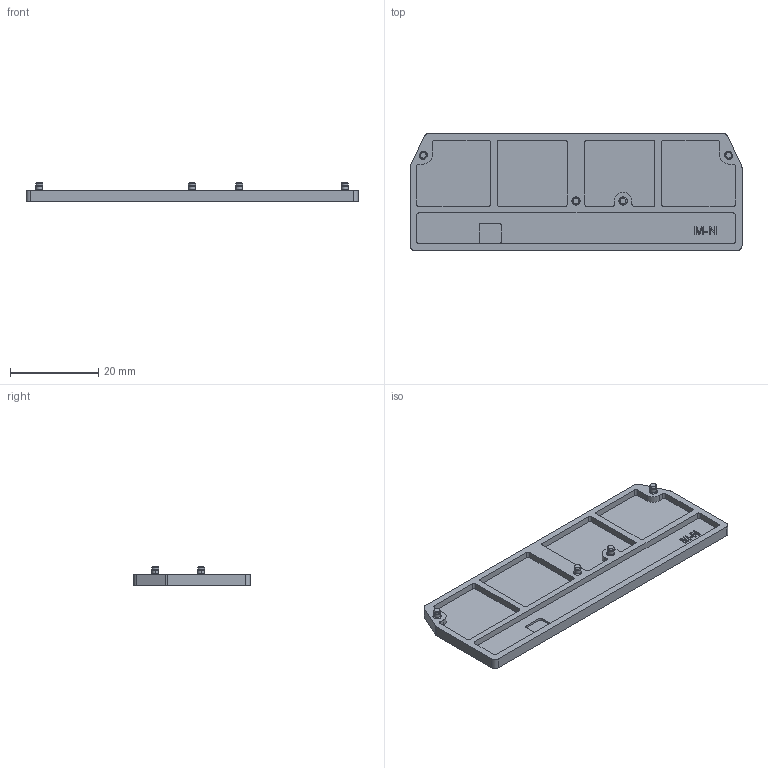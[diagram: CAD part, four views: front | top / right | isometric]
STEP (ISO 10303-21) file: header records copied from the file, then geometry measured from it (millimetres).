
FILE_DESCRIPTION (( 'STEP AP203' ), '1' );
FILE_NAME ('署赅 阎褪.757537.063.STEP', '2019-12-24T13:16:58', ( '' ), ( '' ), 'SwSTEP 2.0', 'SolidWorks 2016', '' );
FILE_SCHEMA (( 'CONFIG_CONTROL_DESIGN' ));
Length unit declared in the file: millimetre
Products named in the file (1): 署赅 阎褪.757537.063
Bounding box: 75.4 x 26.5 x 4.3 mm (x, y, z)
Volume: 2700.8 mm3; surface area: 5157.7 mm2
Topology: 1 solids, 1 shells, 173 faces, 430 edges, 276 vertices
Faces by surface type: plane 87, cylinder 60, cone 24, bspline 2
Entity records: 5269 total; most frequent: CARTESIAN_POINT 962, DIRECTION 906, ORIENTED_EDGE 860, EDGE_CURVE 430, AXIS2_PLACEMENT_3D 308, LINE 290, VECTOR 290, VERTEX_POINT 276
